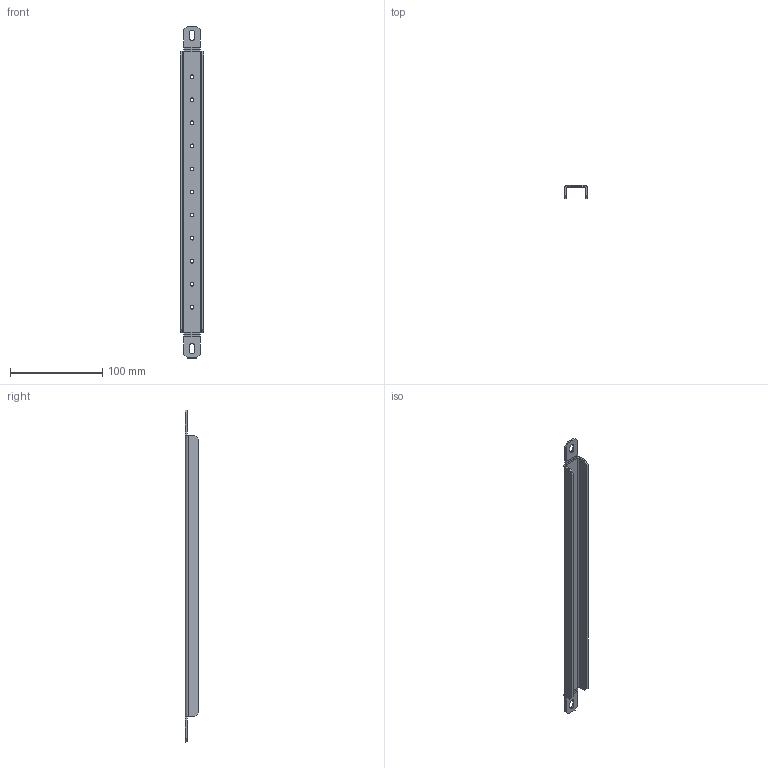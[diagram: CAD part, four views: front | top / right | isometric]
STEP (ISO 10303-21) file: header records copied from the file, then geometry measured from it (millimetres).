
FILE_DESCRIPTION (( 'STEP AP203' ), '1' );
FILE_NAME ('VB 50 G Ðåéêà äëÿ ãëóõîé äâåðè v1.STEP', '2022-08-10T15:38:22', ( '' ), ( '' ), 'SwSTEP 2.0', 'SolidWorks 2018', '' );
FILE_SCHEMA (( 'CONFIG_CONTROL_DESIGN' ));
Length unit declared in the file: millimetre
Products named in the file (1): VB 50 G Ðåéêà äëÿ ãëóõîé äâåðè v1
Bounding box: 25 x 14.5 x 360.31 mm (x, y, z)
Volume: 30516.2 mm3; surface area: 32517.1 mm2
Topology: 1 solids, 1 shells, 98 faces, 240 edges, 144 vertices
Faces by surface type: plane 66, cylinder 32
Entity records: 2953 total; most frequent: DIRECTION 502, CARTESIAN_POINT 483, ORIENTED_EDGE 480, EDGE_CURVE 240, LINE 176, VECTOR 176, AXIS2_PLACEMENT_3D 163, VERTEX_POINT 144
